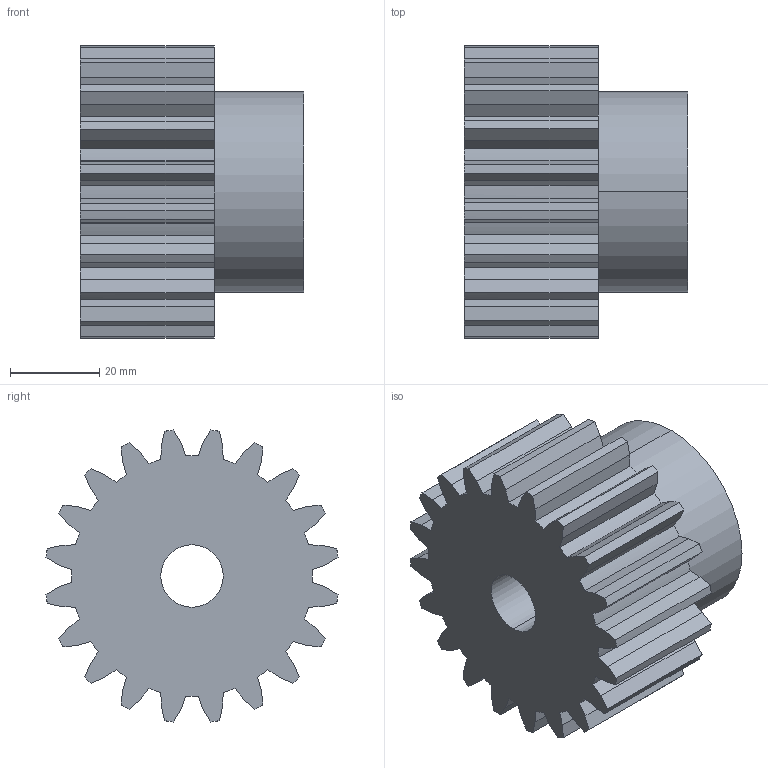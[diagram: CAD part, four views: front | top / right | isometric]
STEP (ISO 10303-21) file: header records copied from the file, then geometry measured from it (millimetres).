
FILE_DESCRIPTION (( 'STEP AP203' ), '1' );
FILE_NAME ('PM 30020.STEP', '2013-09-25T13:43:40', ( '' ), ( '' ), 'SwSTEP 2.0', 'SolidWorks 2010', '' );
FILE_SCHEMA (( 'CONFIG_CONTROL_DESIGN' ));
Length unit declared in the file: millimetre
Products named in the file (1): PM 30020
Bounding box: 50 x 65.47 x 65.47 mm (x, y, z)
Volume: 107719.9 mm3; surface area: 20900.7 mm2
Topology: 1 solids, 1 shells, 127 faces, 372 edges, 248 vertices
Faces by surface type: plane 83, cylinder 44
Entity records: 4375 total; most frequent: CARTESIAN_POINT 1054, ORIENTED_EDGE 744, DIRECTION 592, EDGE_CURVE 372, VERTEX_POINT 248, VECTOR 204, LINE 204, AXIS2_PLACEMENT_3D 194
